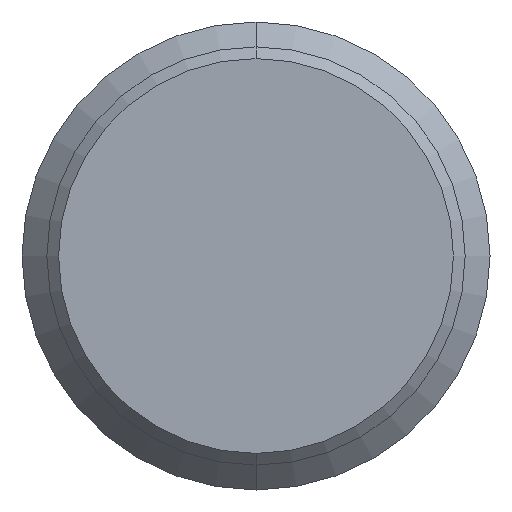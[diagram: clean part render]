
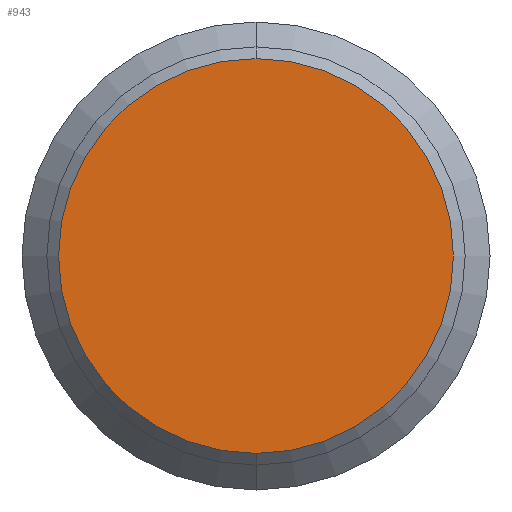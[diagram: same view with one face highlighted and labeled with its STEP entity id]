
A CAD part, front view. The second image highlights one B-rep face of the part: STEP entity #943.
In plain terms, the highlighted planar face has unit normal (0, -1, 0).
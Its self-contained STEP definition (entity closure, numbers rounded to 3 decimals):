
#918=CARTESIAN_POINT('',(0.0,-35.5,-6.75));
#919=VERTEX_POINT('',#918);
#920=CARTESIAN_POINT('',(0.0,-35.5,6.75));
#921=VERTEX_POINT('',#920);
#922=CARTESIAN_POINT('',(0.0,-35.5,0.0));
#923=DIRECTION('',(0.0,-1.0,0.0));
#924=DIRECTION('',(0.0,0.0,-1.0));
#925=AXIS2_PLACEMENT_3D('',#922,#923,#924);
#926=CIRCLE('',#925,6.75);
#927=EDGE_CURVE('no 2645',#919,#921,#926,.T.);
#928=ORIENTED_EDGE('',*,*,#927,.T.);
#929=CARTESIAN_POINT('',(0.0,-35.5,0.0));
#930=DIRECTION('',(0.0,-1.0,0.0));
#931=DIRECTION('',(0.0,0.0,-1.0));
#932=AXIS2_PLACEMENT_3D('',#929,#930,#931);
#933=CIRCLE('',#932,6.75);
#934=EDGE_CURVE('no 2649',#921,#919,#933,.T.);
#935=ORIENTED_EDGE('',*,*,#934,.T.);
#936=EDGE_LOOP('',(#928,#935));
#937=FACE_OUTER_BOUND('',#936,.T.);
#938=CARTESIAN_POINT('',(0.0,-35.5,0.0));
#939=DIRECTION('',(0.0,-1.0,0.0));
#940=DIRECTION('',(0.0,0.0,-1.0));
#941=AXIS2_PLACEMENT_3D('',#938,#939,#940);
#942=PLANE('',#941);
#943=ADVANCED_FACE('no 2636',(#937),#942,.T.);
